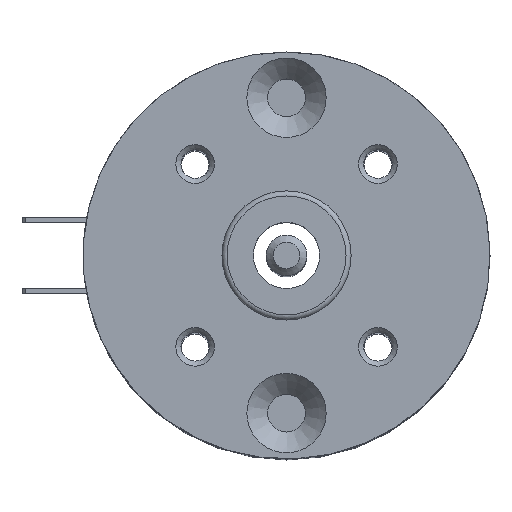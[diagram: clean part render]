
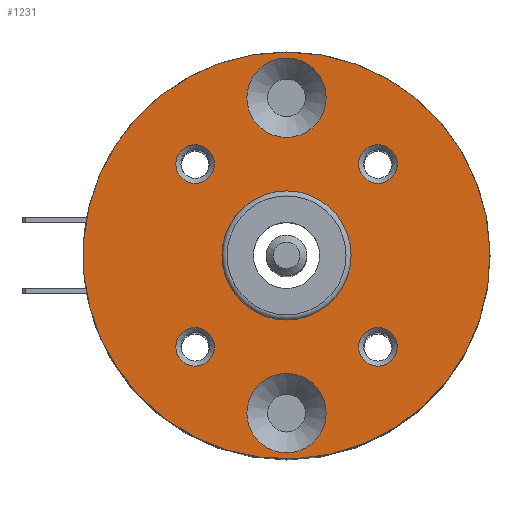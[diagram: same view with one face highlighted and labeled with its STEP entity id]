
A CAD part, top view. The second image highlights one B-rep face of the part: STEP entity #1231.
In plain terms, the highlighted planar face has unit normal (0, 0, 1).
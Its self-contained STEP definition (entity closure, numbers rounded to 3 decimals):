
#1043=CARTESIAN_POINT('',(-19.4,0.,12.6));
#1044=VERTEX_POINT('',#1043);
#1045=CARTESIAN_POINT('',(-15.5,0.,12.6));
#1046=DIRECTION('',(0.0,0.0,-1.0));
#1047=DIRECTION('',(-1.0,0.0,0.0));
#1048=AXIS2_PLACEMENT_3D('',#1045,#1046,#1047);
#1049=CIRCLE('',#1048,3.9);
#1050=EDGE_CURVE('',#1044,#1044,#1049,.T.);
#1091=CARTESIAN_POINT('',(19.4,0.0,12.6));
#1092=VERTEX_POINT('',#1091);
#1093=CARTESIAN_POINT('',(15.5,0.0,12.6));
#1094=DIRECTION('',(0.0,0.0,-1.0));
#1095=DIRECTION('',(1.0,0.0,0.0));
#1096=AXIS2_PLACEMENT_3D('',#1093,#1094,#1095);
#1097=CIRCLE('',#1096,3.9);
#1098=EDGE_CURVE('',#1092,#1092,#1097,.T.);
#1150=CARTESIAN_POINT('',(-8.98,10.88,12.6));
#1151=VERTEX_POINT('',#1150);
#1152=CARTESIAN_POINT('',(-8.98,8.98,12.6));
#1153=DIRECTION('',(0.0,0.0,1.0));
#1154=DIRECTION('',(0.0,-1.0,0.0));
#1155=AXIS2_PLACEMENT_3D('',#1152,#1153,#1154);
#1156=CIRCLE('',#1155,1.9);
#1157=EDGE_CURVE('',#1151,#1151,#1156,.T.);
#1162=CARTESIAN_POINT('',(0.0,0.0,12.6));
#1163=DIRECTION('',(0.0,0.0,-1.0));
#1164=DIRECTION('',(-1.0,0.0,0.0));
#1165=AXIS2_PLACEMENT_3D('',#1162,#1163,#1164);
#1166=PLANE('',#1165);
#1167=CARTESIAN_POINT('',(20.0,0.,12.6));
#1168=VERTEX_POINT('',#1167);
#1169=CARTESIAN_POINT('',(0.0,0.0,12.6));
#1170=DIRECTION('',(0.0,0.0,-1.0));
#1171=DIRECTION('',(-1.0,0.0,0.0));
#1172=AXIS2_PLACEMENT_3D('',#1169,#1170,#1171);
#1173=CIRCLE('',#1172,20.0);
#1174=EDGE_CURVE('',#1168,#1168,#1173,.T.);
#1175=ORIENTED_EDGE('',*,*,#1174,.F.);
#1176=EDGE_LOOP('',(#1175));
#1177=FACE_OUTER_BOUND('',#1176,.T.);
#1178=ORIENTED_EDGE('',*,*,#1050,.T.);
#1179=EDGE_LOOP('',(#1178));
#1180=FACE_BOUND('',#1179,.T.);
#1181=ORIENTED_EDGE('',*,*,#1098,.T.);
#1182=EDGE_LOOP('',(#1181));
#1183=FACE_BOUND('',#1182,.T.);
#1184=CARTESIAN_POINT('',(-10.88,-8.98,12.6));
#1185=VERTEX_POINT('',#1184);
#1186=CARTESIAN_POINT('',(-8.98,-8.98,12.6));
#1187=DIRECTION('',(0.0,0.0,1.0));
#1188=DIRECTION('',(1.0,0.0,0.0));
#1189=AXIS2_PLACEMENT_3D('',#1186,#1187,#1188);
#1190=CIRCLE('',#1189,1.9);
#1191=EDGE_CURVE('',#1185,#1185,#1190,.T.);
#1192=ORIENTED_EDGE('',*,*,#1191,.F.);
#1193=EDGE_LOOP('',(#1192));
#1194=FACE_BOUND('',#1193,.T.);
#1195=CARTESIAN_POINT('',(10.88,8.98,12.6));
#1196=VERTEX_POINT('',#1195);
#1197=CARTESIAN_POINT('',(8.98,8.98,12.6));
#1198=DIRECTION('',(0.0,0.0,1.0));
#1199=DIRECTION('',(-1.0,0.0,0.0));
#1200=AXIS2_PLACEMENT_3D('',#1197,#1198,#1199);
#1201=CIRCLE('',#1200,1.9);
#1202=EDGE_CURVE('',#1196,#1196,#1201,.T.);
#1203=ORIENTED_EDGE('',*,*,#1202,.F.);
#1204=EDGE_LOOP('',(#1203));
#1205=FACE_BOUND('',#1204,.T.);
#1206=CARTESIAN_POINT('',(6.35,0.,12.6));
#1207=VERTEX_POINT('',#1206);
#1208=CARTESIAN_POINT('',(0.0,0.0,12.6));
#1209=DIRECTION('',(0.0,0.0,-1.0));
#1210=DIRECTION('',(-1.0,0.0,0.0));
#1211=AXIS2_PLACEMENT_3D('',#1208,#1209,#1210);
#1212=CIRCLE('',#1211,6.35);
#1213=EDGE_CURVE('',#1207,#1207,#1212,.T.);
#1214=ORIENTED_EDGE('',*,*,#1213,.T.);
#1215=EDGE_LOOP('',(#1214));
#1216=FACE_BOUND('',#1215,.T.);
#1217=CARTESIAN_POINT('',(8.98,-10.88,12.6));
#1218=VERTEX_POINT('',#1217);
#1219=CARTESIAN_POINT('',(8.98,-8.98,12.6));
#1220=DIRECTION('',(0.0,0.0,1.0));
#1221=DIRECTION('',(0.0,1.0,0.0));
#1222=AXIS2_PLACEMENT_3D('',#1219,#1220,#1221);
#1223=CIRCLE('',#1222,1.9);
#1224=EDGE_CURVE('',#1218,#1218,#1223,.T.);
#1225=ORIENTED_EDGE('',*,*,#1224,.F.);
#1226=EDGE_LOOP('',(#1225));
#1227=FACE_BOUND('',#1226,.T.);
#1228=ORIENTED_EDGE('',*,*,#1157,.F.);
#1229=EDGE_LOOP('',(#1228));
#1230=FACE_BOUND('',#1229,.T.);
#1231=ADVANCED_FACE('',(#1177,#1180,#1183,#1194,#1205,#1216,#1227,#1230),#1166,.F.);
